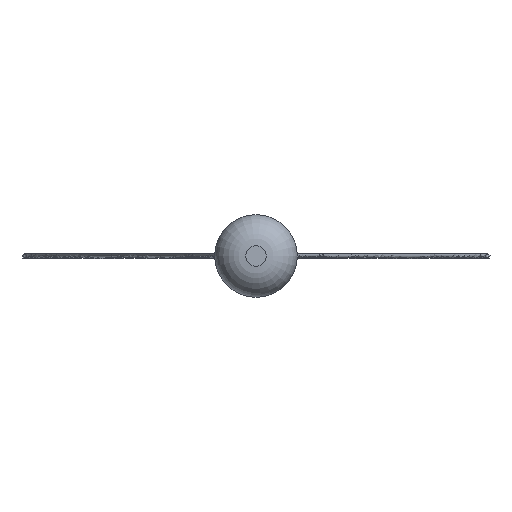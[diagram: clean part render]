
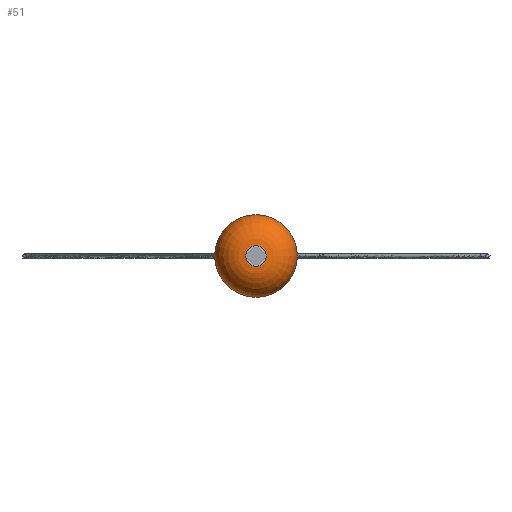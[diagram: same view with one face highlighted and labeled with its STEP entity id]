
A CAD part, left-side view. The second image highlights one B-rep face of the part: STEP entity #51.
In plain terms, the highlighted toroidal (fillet/blend) face has major radius 0.5 mm and minor radius 1.5 mm.
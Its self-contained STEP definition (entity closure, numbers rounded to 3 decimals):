
#2 = CARTESIAN_POINT ( 'NONE',  ( -223.819, -5.816, 26.133 ) ) ;
#9 = VERTEX_POINT ( 'NONE', #461 ) ;
#45 = VERTEX_POINT ( 'NONE', #215 ) ;
#51 = ADVANCED_FACE ( 'NONE', ( #490, #83 ), #292, .T. ) ;
#74 = AXIS2_PLACEMENT_3D ( 'NONE', #250, #281, #165 ) ;
#83 = FACE_OUTER_BOUND ( 'NONE', #489, .T. ) ;
#105 = AXIS2_PLACEMENT_3D ( 'NONE', #500, #463, #327 ) ;
#108 = ORIENTED_EDGE ( 'NONE', *, *, #522, .T. ) ;
#129 = CIRCLE ( 'NONE', #74, 0.5 ) ;
#165 = DIRECTION ( 'NONE',  ( 0., 1., 0. ) ) ;
#212 = DIRECTION ( 'NONE',  ( 0., 1., 0. ) ) ;
#215 = CARTESIAN_POINT ( 'NONE',  ( -225.319, -5.316, 26.133 ) ) ;
#250 = CARTESIAN_POINT ( 'NONE',  ( -225.319, -5.816, 26.133 ) ) ;
#281 = DIRECTION ( 'NONE',  ( 1., 0., 0. ) ) ;
#292 = TOROIDAL_SURFACE ( 'NONE', #496, 0.5, 1.5 ) ;
#313 = EDGE_LOOP ( 'NONE', ( #108 ) ) ;
#327 = DIRECTION ( 'NONE',  ( 0., 1., 0. ) ) ;
#373 = CIRCLE ( 'NONE', #105, 2. ) ;
#396 = EDGE_CURVE ( 'NONE', #9, #9, #373, .T. ) ;
#453 = DIRECTION ( 'NONE',  ( 1., 0., 0. ) ) ;
#461 = CARTESIAN_POINT ( 'NONE',  ( -223.819, -3.816, 26.133 ) ) ;
#463 = DIRECTION ( 'NONE',  ( 1., 0., 0. ) ) ;
#489 = EDGE_LOOP ( 'NONE', ( #528 ) ) ;
#490 = FACE_OUTER_BOUND ( 'NONE', #313, .T. ) ;
#496 = AXIS2_PLACEMENT_3D ( 'NONE', #2, #453, #212 ) ;
#500 = CARTESIAN_POINT ( 'NONE',  ( -223.819, -5.816, 26.133 ) ) ;
#522 = EDGE_CURVE ( 'NONE', #45, #45, #129, .T. ) ;
#528 = ORIENTED_EDGE ( 'NONE', *, *, #396, .F. ) ;
